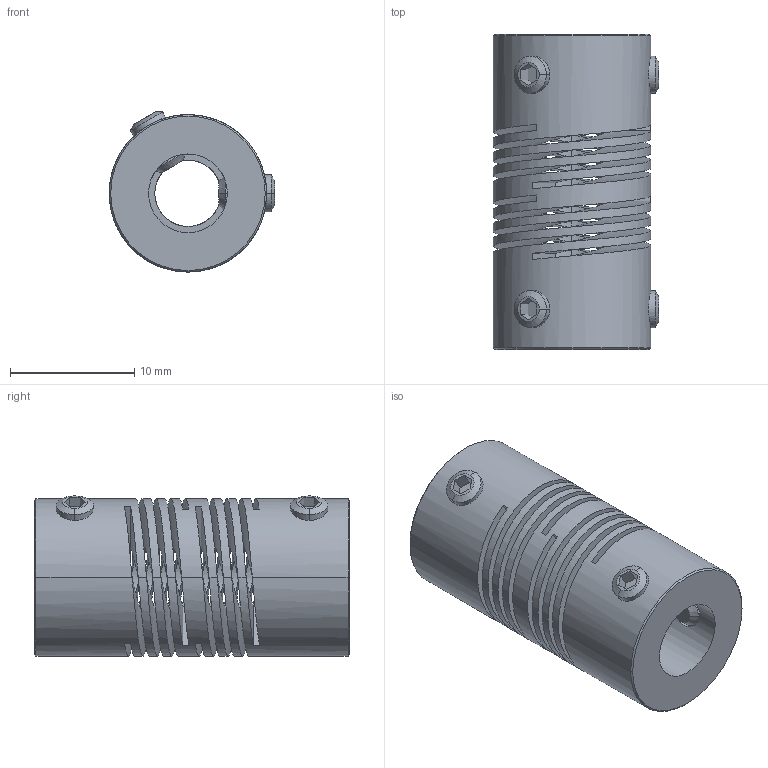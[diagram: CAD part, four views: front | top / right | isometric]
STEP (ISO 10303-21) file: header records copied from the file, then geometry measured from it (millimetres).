
FILE_DESCRIPTION((''),'2;1');
FILE_NAME('702_13_ASM','2006-12-06T',('Gary Melling'),(''),'PRO/ENGINEER BY PARAMETRIC TECHNOLOGY CORPORATION, 2006240','PRO/ENGINEER BY PARAMETRIC TECHNOLOGY CORPORATION, 2006240','');
FILE_SCHEMA(('CONFIG_CONTROL_DESIGN'));
Length unit declared in the file: millimetre
Products named in the file (3): 702_13; GS_3; 702_13_ASM
Assembly tree (5 placements, depth 2):
  702_13_ASM
    702_13
    GS_3  x4
Bounding box: 13.35 x 25.4 x 12.91 mm (x, y, z)
Volume: 2127 mm3; surface area: 3466 mm2
Topology: 5 solids, 5 shells, 130 faces, 358 edges, 228 vertices
Faces by surface type: plane 52, cylinder 46, cone 20, bspline 12
Entity records: 5273 total; most frequent: CARTESIAN_POINT 3020, ORIENTED_EDGE 524, DIRECTION 348, EDGE_CURVE 262, VERTEX_POINT 168, VECTOR 130, LINE 130, AXIS2_PLACEMENT_3D 109
